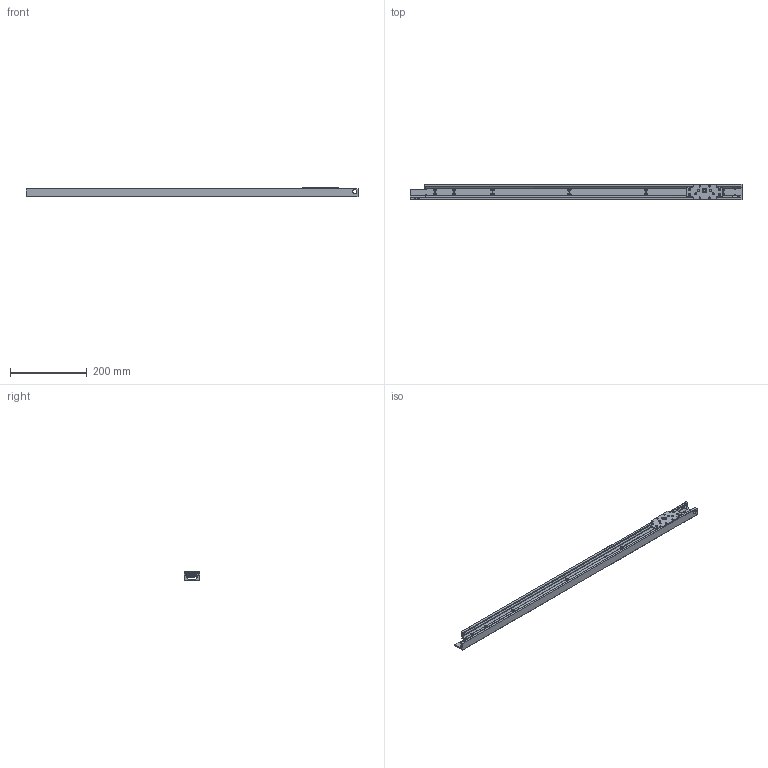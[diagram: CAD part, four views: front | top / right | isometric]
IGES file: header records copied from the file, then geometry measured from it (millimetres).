
Global section: file name:  ; native system: Kubotek KeyCreator; preprocessor: KCM Version 1.1.28; author: KeyCreator•p{ž; organization: Self; date: 20161201.000025; units: millimetre
Bounding box: 865 x 40 x 25.03 mm (x, y, z)
Surface area: 182147.6 mm2 (no closed solid volume)
Topology: 0 solids, 0 shells, 455 faces, 3345 edges, 3345 vertices
Faces by surface type: bspline 455
